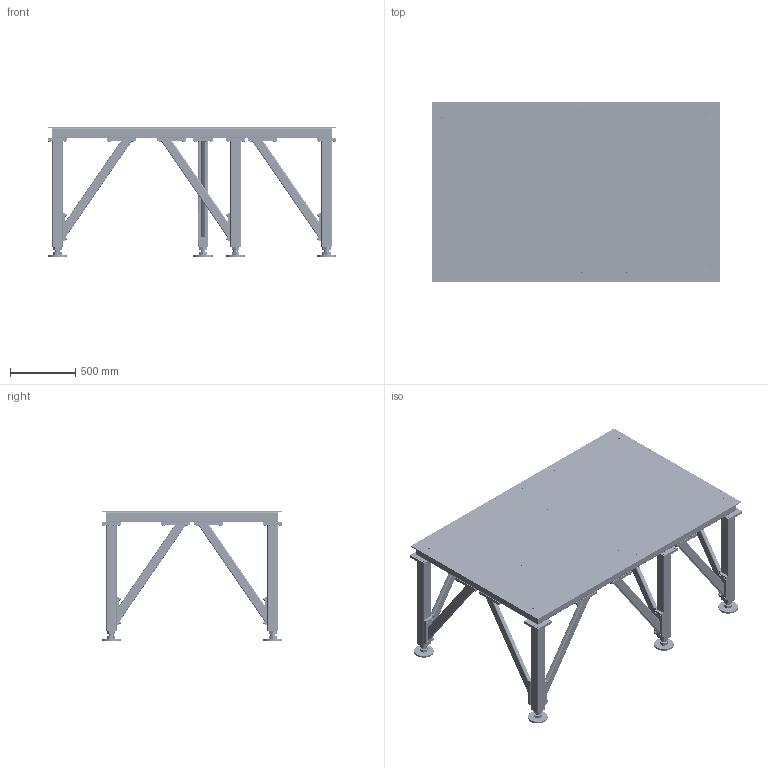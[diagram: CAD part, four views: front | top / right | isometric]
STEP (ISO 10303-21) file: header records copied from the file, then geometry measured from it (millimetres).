
FILE_DESCRIPTION (( 'STEP AP214' ), '1' );
FILE_NAME ('FAU-ALTA2-01 CHASSIS.STEP', '2025-01-30T16:49:10', ( '' ), ( '' ), 'SwSTEP 2.0', 'SolidWorks 2017', '' );
FILE_SCHEMA (( 'AUTOMOTIVE_DESIGN' ));
Length unit declared in the file: millimetre
Products named in the file (17): FAU-ALTA2-05_2<Brut d''usinage>; FAU-ALTA2-05_1; FAU-ALTA2-03; Z-ecrou_din934_m36-10; FAU-ALTA2-07; FAU-ALTA2-04; Z-h _m36x140; Z-Washer_WASHER M 10; Z-Screw_H_SCREW H M10x30-26; FAU-ALTA2-05_1<Brut d''usinage>; FAU-ALTA2-07_DWG; FAU-ALTA2-02_D‚faut<Brut d''usinage>; Z-M10 assy; FAU-ALTA2-02_DWG; FAU-ALTA2-01 CHASSIS; FAU-ALTA2-05_2 1 TAC; FAU-ALTA2-06_600 TAC<Brut d''usinage>
Assembly tree (94 placements, depth 4):
  FAU-ALTA2-01 CHASSIS
    FAU-ALTA2-02_DWG
      FAU-ALTA2-02_D‚faut<Brut d''usinage>
    FAU-ALTA2-05_2 1 TAC  x5
      FAU-ALTA2-05_1<Brut d''usinage>
      Z-M10 assy
        Z-Screw_H_SCREW H M10x30-26
        Z-Washer_WASHER M 10
      FAU-ALTA2-06_600 TAC<Brut d''usinage>
      FAU-ALTA2-07_DWG
        Z-h _m36x140
        Z-ecrou_din934_m36-10
        FAU-ALTA2-07
    FAU-ALTA2-05_1
      FAU-ALTA2-05_2<Brut d''usinage>
      Z-M10 assy  x8
        Z-Screw_H_SCREW H M10x30-26
        Z-Washer_WASHER M 10
      FAU-ALTA2-06_600 TAC<Brut d''usinage>
      FAU-ALTA2-07_DWG
        Z-h _m36x140
        Z-ecrou_din934_m36-10
        FAU-ALTA2-07
    FAU-ALTA2-03
    FAU-ALTA2-04
    Z-M10 assy  x48
      Z-Screw_H_SCREW H M10x30-26
      Z-Washer_WASHER M 10
Bounding box: 2220 x 1390 x 1000 mm (x, y, z)
Volume: 64442281.7 mm3; surface area: 29396131.2 mm2
Topology: 393 solids, 393 shells, 5178 faces, 12216 edges, 7978 vertices
Faces by surface type: plane 2354, cylinder 2044, cone 768, bspline 12
Entity records: 45901 total; most frequent: CARTESIAN_POINT 7405, DIRECTION 7404, ORIENTED_EDGE 6542, EDGE_CURVE 3271, AXIS2_PLACEMENT_3D 2888, VERTEX_POINT 2147, EDGE_LOOP 1878, LINE 1628
